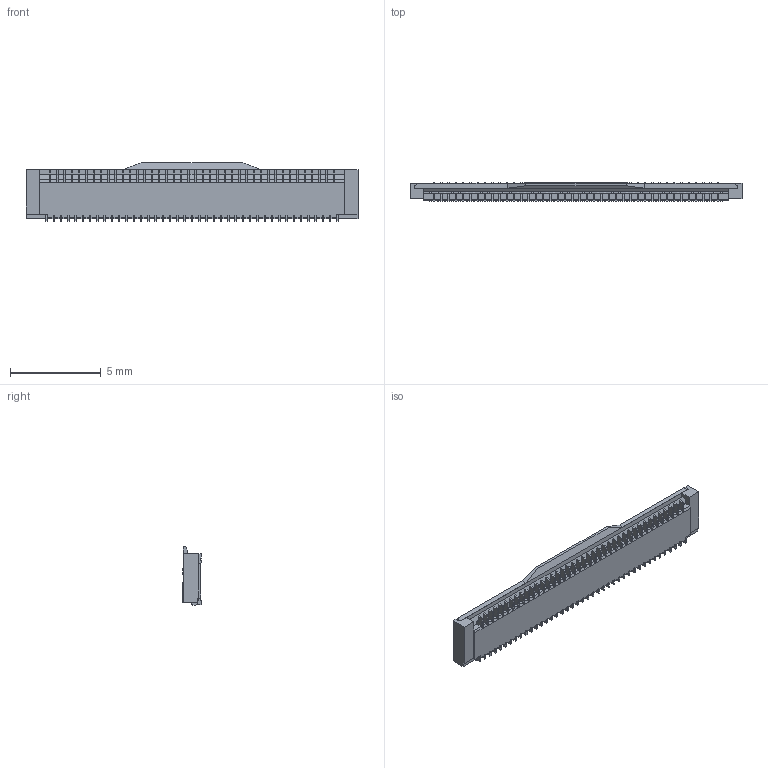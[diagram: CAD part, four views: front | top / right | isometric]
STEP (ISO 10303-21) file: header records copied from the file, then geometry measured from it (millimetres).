
FILE_DESCRIPTION (( 'STEP AP214' ), '1' );
FILE_NAME ('FF0881SA1.STEP', '2020-11-11T03:18:44', ( '' ), ( '' ), 'SwSTEP 2.0', 'SolidWorks 2017', '' );
FILE_SCHEMA (( 'AUTOMOTIVE_DESIGN' ));
Length unit declared in the file: millimetre
Products named in the file (1): FF0881SA1
Bounding box: 18.25 x 1 x 3.23 mm (x, y, z)
Volume: 35.4 mm3; surface area: 364.7 mm2
Topology: 123 solids, 123 shells, 3652 faces, 10460 edges, 6972 vertices
Faces by surface type: plane 2517, cylinder 1135
Entity records: 120278 total; most frequent: CARTESIAN_POINT 21085, ORIENTED_EDGE 20920, DIRECTION 20036, EDGE_CURVE 10460, LINE 8190, VECTOR 8190, VERTEX_POINT 6972, AXIS2_PLACEMENT_3D 5923
